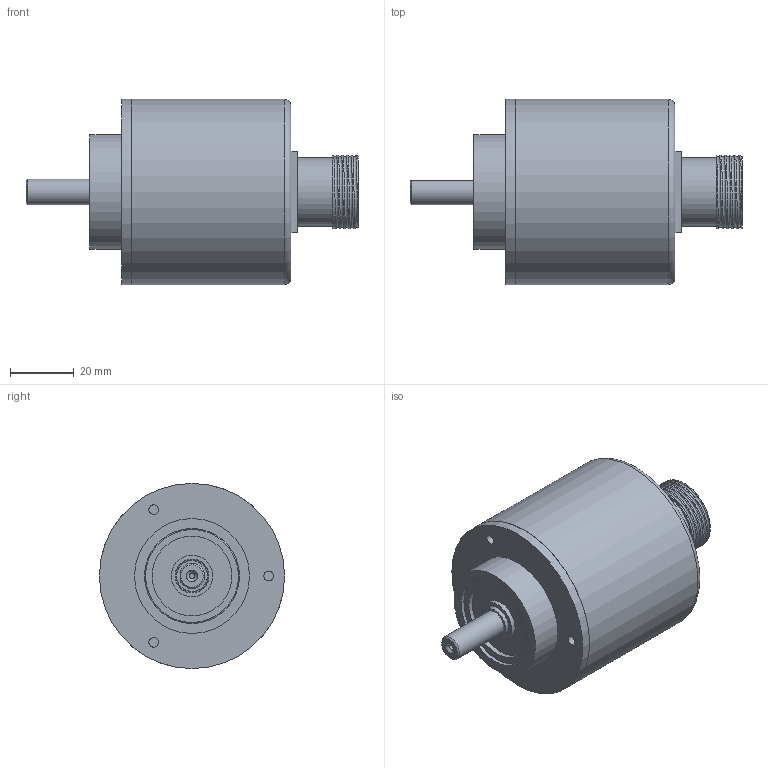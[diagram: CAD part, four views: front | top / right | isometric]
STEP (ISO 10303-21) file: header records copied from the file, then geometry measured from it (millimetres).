
FILE_DESCRIPTION(/* description */ (''),/* implementation_level */ '2;1');
FILE_NAME(/* name */ '3DCAD_EI 1058_S08x20C_M23A.stp',/* time_stamp */ '2020-07-16T11:56:58+02:00',/* author */ ('CC2'),/* organization */ ('Leuze electronic'),/* preprocessor_version */ 'ST-DEVELOPER v16',/* originating_system */ 'SIEMENS PLM Software NX 11.0',/* authorisation */ '');
FILE_SCHEMA (('AUTOMOTIVE_DESIGN { 1 0 10303 214 3 1 1 1 }'));
Length unit declared in the file: millimetre
Products named in the file (1): 19-103177_00_1-3DCAD_EI 1058_S08x20C_M23A
Bounding box: 104 x 58 x 58 mm (x, y, z)
Volume: 155628.3 mm3; surface area: 22076.5 mm2
Topology: 1 solids, 1 shells, 88 faces, 172 edges, 121 vertices
Faces by surface type: plane 43, cylinder 36, torus 5, cone 3, bspline 1
Full cylindrical faces by diameter (mm): 1 x12, 1.6 x1, 1.8 x1, 3 x7, 9.6 x1, 10.03 x1, 13 x1, 19 x1, 21.5 x1, 25 x1, 29.7 x1, 29.73 x1, 36 x1, 54 x1, 54.03 x1, 58 x2
Entity records: 3276 total; most frequent: CARTESIAN_POINT 1357, DIRECTION 353, ORIENTED_EDGE 248, AXIS2_PLACEMENT_3D 168, EDGE_LOOP 164, FACE_BOUND 134, EDGE_CURVE 124, VERTEX_POINT 114
